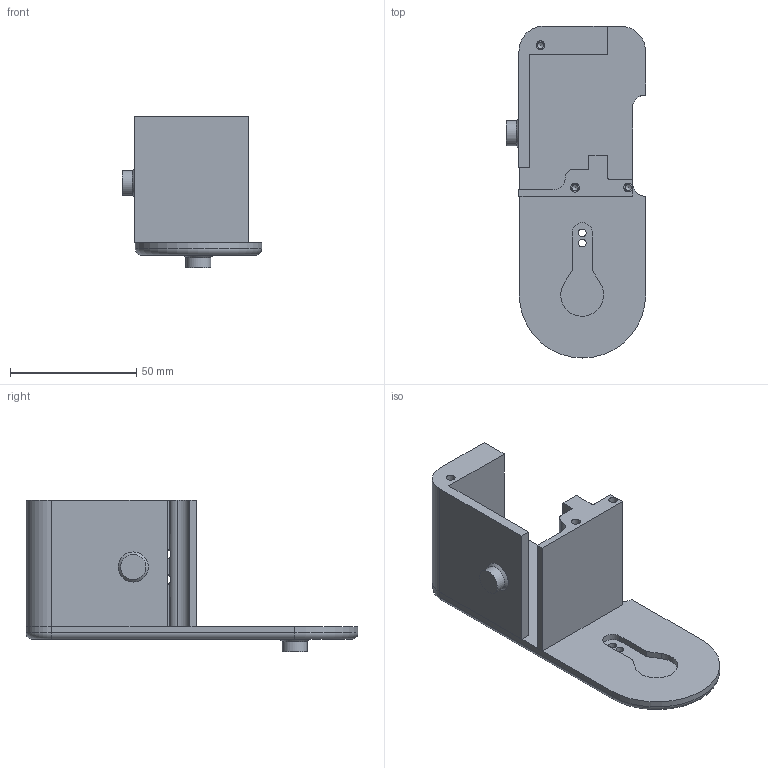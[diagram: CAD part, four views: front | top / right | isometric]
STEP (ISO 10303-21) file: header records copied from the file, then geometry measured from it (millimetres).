
FILE_DESCRIPTION(/* description */ (''),/* implementation_level */ '2;1');
FILE_NAME(/* name */ 'right_upper_bottom.step',/* time_stamp */ '2026-06-13T15:30:50-06:00',/* author */ (''),/* organization */ (''),/* preprocessor_version */ 'ST-DEVELOPER v20.1',/* originating_system */ 'Autodesk Translation Framework v15.8.0.0',/* authorisation */ '');
FILE_SCHEMA (('AUTOMOTIVE_DESIGN { 1 0 10303 214 3 1 1 }'));
Length unit declared in the file: millimetre
Products named in the file (1): right_upper_bottom
Bounding box: 55.14 x 131.3 x 60 mm (x, y, z)
Volume: 72434.5 mm3; surface area: 29790.7 mm2
Topology: 1 solids, 1 shells, 89 faces, 219 edges, 140 vertices
Faces by surface type: plane 46, cylinder 33, cone 7, torus 3
Full cylindrical faces by diameter (mm): 2.5 x3, 3.1 x2, 3.5 x3, 4.166 x4, 6.3 x4, 9.9 x2
Entity records: 2687 total; most frequent: CARTESIAN_POINT 488, DIRECTION 463, ORIENTED_EDGE 428, EDGE_CURVE 214, AXIS2_PLACEMENT_3D 165, VERTEX_POINT 140, LINE 133, VECTOR 133
